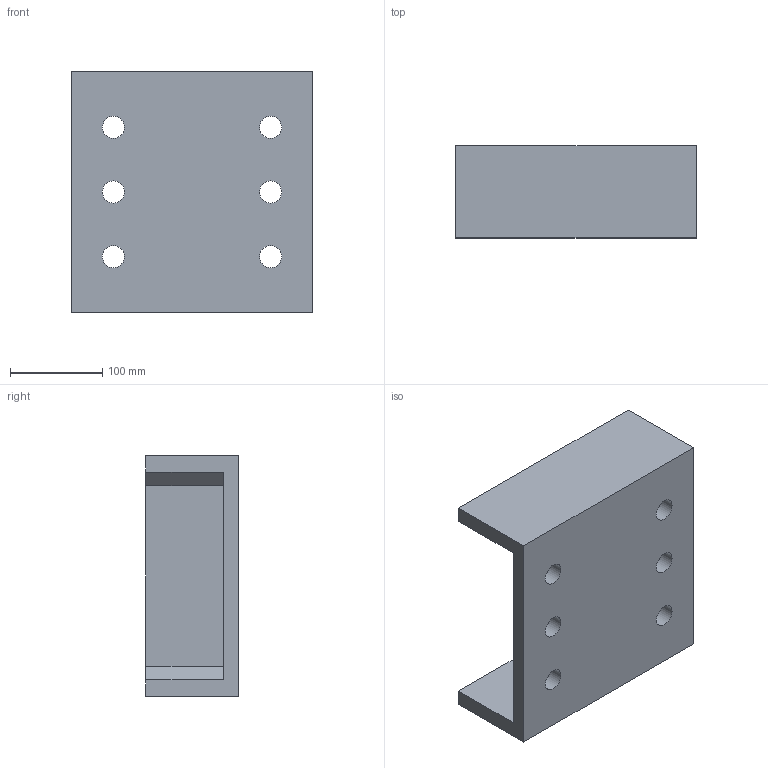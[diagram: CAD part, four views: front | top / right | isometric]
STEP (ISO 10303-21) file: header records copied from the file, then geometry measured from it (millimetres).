
FILE_DESCRIPTION(('FreeCAD Model'),'2;1');
FILE_NAME('Open CASCADE Shape Model','2023-01-17T18:27:58',(''),(''), 'Open CASCADE STEP processor 7.6','FreeCAD','Unknown');
FILE_SCHEMA(('AUTOMOTIVE_DESIGN { 1 0 10303 214 1 1 1 1 }'));
Length unit declared in the file: millimetre
Products named in the file (1): HEB260_02
Bounding box: 260 x 100 x 260 mm (x, y, z)
Volume: 2029370.6 mm3; surface area: 280057.2 mm2
Topology: 1 solids, 1 shells, 24 faces, 66 edges, 44 vertices
Faces by surface type: plane 18, cylinder 6
Full cylindrical faces by diameter (mm): 24 x6
Entity records: 1702 total; most frequent: CARTESIAN_POINT 339, DIRECTION 248, LINE 174, VECTOR 174, ORIENTED_EDGE 132, PCURVE 132, DEFINITIONAL_REPRESENTATION 132, EDGE_CURVE 66
